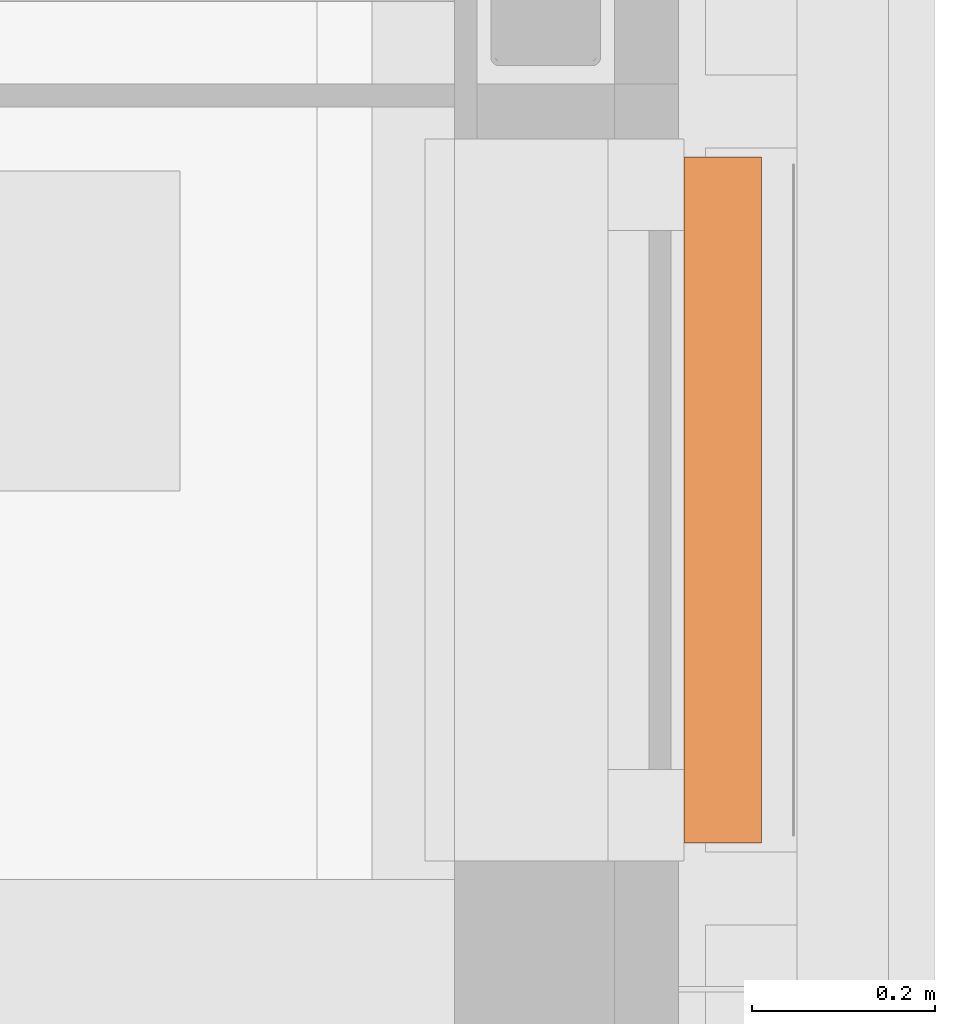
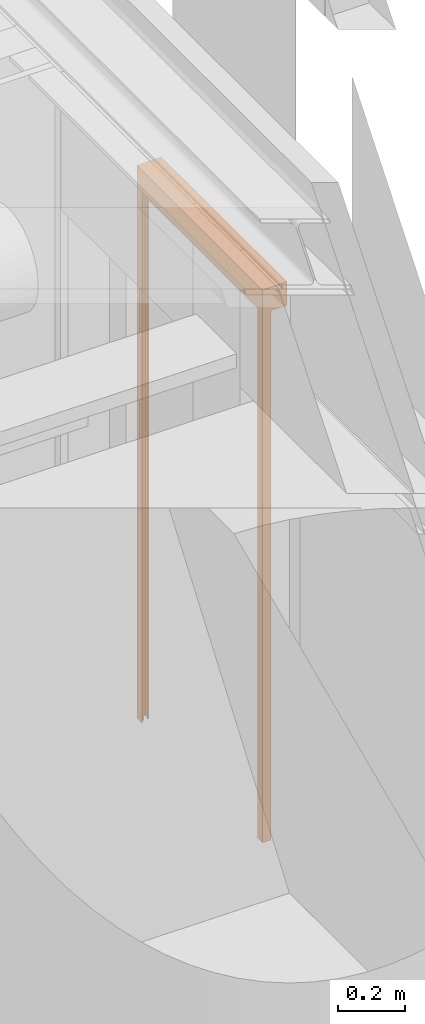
# One storey, part 106 of 128: 1 proxy.
"""IFC2X3 building model written with IfcOpenShell, lengths in millimetres."""

from ifc_helpers import new_model, entity, si_unit, converted_unit, derived_unit, direction, frame, frame_2d, origin, place, context, subcontext, project, spatial, polyline, circle_curve, parameter, trimmed, segment, composite_curve, rectangle, outline, extrude, source, transform, mapped, material, material_list, type_object, type_shapes, element, save


model = new_model("IFC2X3")

# Units and contexts
model_context = context("Model", 3, precision=0.01, world=origin(), true_north=direction((6.123031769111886e-17, 1.0)))
body_context = subcontext(model_context, "Body", "Model", "MODEL_VIEW")
ifc_project = project(units=[si_unit("LENGTHUNIT", "METRE", prefix="MILLI"), si_unit("AREAUNIT", "SQUARE_METRE"), si_unit("VOLUMEUNIT", "CUBIC_METRE"), converted_unit("PLANEANGLEUNIT", "DEGREE", entity("IfcRatioMeasure", 0.017453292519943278), si_unit("PLANEANGLEUNIT", "RADIAN"), dimensions=[0, 0, 0, 0, 0, 0, 0]), si_unit("MASSUNIT", "GRAM", prefix="KILO"), derived_unit("MASSDENSITYUNIT", [(si_unit("MASSUNIT", "GRAM", prefix="KILO"), 1), (si_unit("LENGTHUNIT", "METRE"), -3)]), derived_unit("IONCONCENTRATIONUNIT", [(si_unit("MASSUNIT", "GRAM", prefix="KILO"), 1), (si_unit("LENGTHUNIT", "METRE"), -3)]), derived_unit("MOMENTOFINERTIAUNIT", [(si_unit("LENGTHUNIT", "METRE"), 4)]), si_unit("TIMEUNIT", "SECOND"), si_unit("FREQUENCYUNIT", "HERTZ"), si_unit("THERMODYNAMICTEMPERATUREUNIT", "DEGREE_CELSIUS"), derived_unit("THERMALTRANSMITTANCEUNIT", [(si_unit("MASSUNIT", "GRAM", prefix="KILO"), 1), (si_unit("THERMODYNAMICTEMPERATUREUNIT", "KELVIN"), -1), (si_unit("TIMEUNIT", "SECOND"), -3)]), derived_unit("THERMALCONDUCTANCEUNIT", [(si_unit("MASSUNIT", "GRAM", prefix="KILO"), 1), (si_unit("THERMODYNAMICTEMPERATUREUNIT", "KELVIN"), -1), (si_unit("TIMEUNIT", "SECOND"), -3), (si_unit("LENGTHUNIT", "METRE"), 1)]), derived_unit("VOLUMETRICFLOWRATEUNIT", [(si_unit("LENGTHUNIT", "METRE"), 3), (si_unit("TIMEUNIT", "SECOND"), -1)]), derived_unit("MASSFLOWRATEUNIT", [(si_unit("MASSUNIT", "GRAM", prefix="KILO"), 1), (si_unit("TIMEUNIT", "SECOND"), -1)]), derived_unit("ROTATIONALFREQUENCYUNIT", [(si_unit("TIMEUNIT", "SECOND"), -1)]), si_unit("ELECTRICCURRENTUNIT", "AMPERE"), si_unit("ELECTRICVOLTAGEUNIT", "VOLT"), si_unit("POWERUNIT", "WATT"), si_unit("FORCEUNIT", "NEWTON", prefix="KILO"), si_unit("ILLUMINANCEUNIT", "LUX"), si_unit("LUMINOUSFLUXUNIT", "LUMEN"), si_unit("LUMINOUSINTENSITYUNIT", "CANDELA"), derived_unit("USERDEFINED", [(si_unit("MASSUNIT", "GRAM", prefix="KILO"), -1), (si_unit("LENGTHUNIT", "METRE"), -2), (si_unit("TIMEUNIT", "SECOND"), 3), (si_unit("LUMINOUSFLUXUNIT", "LUMEN"), 1)]), derived_unit("USERDEFINED", [(si_unit("MASSUNIT", "GRAM", prefix="KILO"), 1), (si_unit("TIMEUNIT", "SECOND"), -3), (si_unit("LENGTHUNIT", "METRE"), 3), (si_unit("ELECTRICCURRENTUNIT", "AMPERE"), -2)]), derived_unit("SOUNDPOWERUNIT", [(si_unit("MASSUNIT", "GRAM", prefix="KILO"), 1), (si_unit("TIMEUNIT", "SECOND"), -3), (si_unit("LENGTHUNIT", "METRE"), 2)]), derived_unit("SOUNDPRESSUREUNIT", [(si_unit("MASSUNIT", "GRAM", prefix="KILO"), 1), (si_unit("LENGTHUNIT", "METRE"), -1), (si_unit("TIMEUNIT", "SECOND"), -2)]), derived_unit("LINEARVELOCITYUNIT", [(si_unit("LENGTHUNIT", "METRE"), 1), (si_unit("TIMEUNIT", "SECOND"), -1)]), si_unit("PRESSUREUNIT", "PASCAL"), derived_unit("USERDEFINED", [(si_unit("MASSUNIT", "GRAM", prefix="KILO"), 1), (si_unit("LENGTHUNIT", "METRE"), -2), (si_unit("TIMEUNIT", "SECOND"), -2)]), derived_unit("LINEARFORCEUNIT", [(si_unit("MASSUNIT", "GRAM", prefix="KILO"), 1), (si_unit("TIMEUNIT", "SECOND"), -2)]), derived_unit("PLANARFORCEUNIT", [(si_unit("MASSUNIT", "GRAM", prefix="KILO"), 1), (si_unit("LENGTHUNIT", "METRE"), -1), (si_unit("TIMEUNIT", "SECOND"), -2)]), derived_unit("SPECIFICHEATCAPACITYUNIT", [(si_unit("THERMODYNAMICTEMPERATUREUNIT", "KELVIN"), -1), (si_unit("LENGTHUNIT", "METRE"), 2), (si_unit("TIMEUNIT", "SECOND"), -2)]), derived_unit("HEATINGVALUEUNIT", [(si_unit("LENGTHUNIT", "METRE"), 2), (si_unit("TIMEUNIT", "SECOND"), -2)]), derived_unit("VAPORPERMEABILITYUNIT", [(si_unit("LENGTHUNIT", "METRE"), -1), (si_unit("TIMEUNIT", "SECOND"), 1)]), derived_unit("DYNAMICVISCOSITYUNIT", [(si_unit("MASSUNIT", "GRAM", prefix="KILO"), 1), (si_unit("TIMEUNIT", "SECOND"), -1), (si_unit("LENGTHUNIT", "METRE"), -1)]), derived_unit("THERMALEXPANSIONCOEFFICIENTUNIT", [(si_unit("THERMODYNAMICTEMPERATUREUNIT", "KELVIN"), -1)]), derived_unit("MODULUSOFELASTICITYUNIT", [(si_unit("MASSUNIT", "GRAM", prefix="KILO"), 1), (si_unit("LENGTHUNIT", "METRE"), -1), (si_unit("TIMEUNIT", "SECOND"), -2)]), derived_unit("ISOTHERMALMOISTURECAPACITYUNIT", [(si_unit("LENGTHUNIT", "METRE"), 3), (si_unit("MASSUNIT", "GRAM", prefix="KILO"), -1)]), derived_unit("MOISTUREDIFFUSIVITYUNIT", [(si_unit("TIMEUNIT", "SECOND"), -1), (si_unit("LENGTHUNIT", "METRE"), 2)])], contexts=[model_context])

# Site, building, storey
site_placement = place(None, frame((0.0, 300.0, 0.0)))
site = spatial("IfcSite", under=ifc_project, at=site_placement, Name="<Kadastrale nummers>", CompositionType="ELEMENT")
building_placement = place(site_placement, origin())
building = spatial("IfcBuilding", under=site, at=building_placement, CompositionType="ELEMENT")
storey_placement = place(building_placement, frame((0.0, 0.0, 3560.0000331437)))
storey = spatial("IfcBuildingStorey", under=building, at=storey_placement, Name="01 eerste verdieping", CompositionType="ELEMENT", Elevation=3560.0000331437)

# Proxy
ifc_material_1 = material(Name="STAAL_RAL 7006")
ifc_material_2 = material(Name="<Unnamed>")
ifc_material_list = material_list([ifc_material_1, ifc_material_2])
building_element_proxy_type = type_object("IfcBuildingElementProxyType", Name="31_DAT_Screen_zonwering_bak85:31_DAT_Screen_zonwering_bak85", PredefinedType="NOTDEFINED", material=ifc_material_list)
shared_shape = source(origin(), body_context, "Body", "SweptSolid", [
    extrude(outline(polyline([(-60.69864841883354, -53.573897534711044), (20.695945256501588, -53.573897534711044), (20.695945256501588, 1.1216926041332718), (22.501351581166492, 1.1216926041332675), (22.501351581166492, 24.626102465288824), (17.501351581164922, 24.626102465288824), (17.501351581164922, 27.826102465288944), (-60.69864841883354, 27.826102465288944), (-60.69864841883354, -53.573897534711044)])), frame((748.0, -29.62610246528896, 2752.501351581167), z_axis=(1.0, 0.0, 0.0), x_axis=(0.0, 0.0, -1.0)), (0.0, 0.0, 1.0), 1.9999999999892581),
    extrude(outline(polyline([(-55.83243227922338, -51.08259835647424), (29.167567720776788, -51.08259835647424), (29.167567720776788, 5.412991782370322), (27.362161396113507, 5.412991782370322), (27.362161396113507, -49.28259835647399), (-54.032432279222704, -49.28259835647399), (-54.032432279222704, 32.117401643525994), (24.16756772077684, 32.117401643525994), (24.16756772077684, 28.91740164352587), (29.167567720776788, 28.91740164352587), (29.167567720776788, 33.917401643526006), (-55.83243227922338, 33.917401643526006), (-55.83243227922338, -51.08259835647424)])), frame((0.0, -33.917401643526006, 2759.1675677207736), z_axis=(1.0, 0.0, 0.0), x_axis=(0.0, 0.0, -1.0)), (0.0, 0.0, 1.0), 749.9999999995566),
    extrude(outline(polyline([(-60.69864841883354, -53.573897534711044), (20.695945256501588, -53.573897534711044), (20.695945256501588, 1.1216926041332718), (22.501351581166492, 1.1216926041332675), (22.501351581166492, 24.626102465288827), (17.501351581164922, 24.626102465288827), (17.501351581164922, 27.826102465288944), (-60.69864841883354, 27.826102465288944), (-60.69864841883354, -53.573897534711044)])), frame((0.0, -29.62610246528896, 2752.501351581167), z_axis=(1.0, 0.0, 0.0), x_axis=(0.0, 0.0, -1.0)), (0.0, 0.0, 1.0), 1.999999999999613),
    extrude(rectangle(XDim=709.9999999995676, YDim=1.163311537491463, at=frame_2d((0.0, -2.1094237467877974e-15), x_axis=(1.0, 0.0))), frame((375.0, -20.037293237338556, 2730.0)), (0.0, 0.0, 1.0), 61.996041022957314),
    extrude(outline(composite_curve([segment(polyline([(-7.502327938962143, -23.023758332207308), (7.497672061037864, -23.023758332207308)]), True, "CONTINUOUS"), segment(trimmed(circle_curve(frame_2d((7.497672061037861, -21.523758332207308), x_axis=(0.0, -1.0)), 1.4999999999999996), [parameter(359.99999999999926)], [parameter(90.00000000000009)], True, "PARAMETER"), True, "CONTINUOUS"), segment(polyline([(8.997672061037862, -21.523758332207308), (8.997672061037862, 8.976241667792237)]), True, "CONTINUOUS"), segment(trimmed(circle_curve(frame_2d((5.99767206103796, 8.976241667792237), x_axis=(0.0, -1.0)), 3.0), [parameter(90.00000000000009)], [parameter(172.84454900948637)], True, "PARAMETER"), True, "CONTINUOUS"), segment(polyline([(6.371357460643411, 11.952877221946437), (2.232090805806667, 12.470504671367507)]), True, "CONTINUOUS"), segment(trimmed(circle_curve(frame_2d((2.1399803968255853, 11.733933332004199), x_axis=(0.0, -1.0)), 0.7423083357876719), [parameter(172.87199730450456)], [parameter(323.5235343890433)], True, "PARAMETER"), True, "CONTINUOUS"), segment(trimmed(circle_curve(frame_2d((-0.0023279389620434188, 8.976241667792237), x_axis=(0.0, -1.0)), 2.75), [parameter(217.47327986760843)], [parameter(141.78969998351)], True, "PARAMETER"), False, "CONTINUOUS"), segment(trimmed(circle_curve(frame_2d((-2.144636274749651, 11.733933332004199), x_axis=(0.0, -1.0)), 0.7423083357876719), [parameter(39.207114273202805)], [parameter(187.12800269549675)], True, "PARAMETER"), True, "CONTINUOUS"), segment(polyline([(-2.2367466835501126, 12.470504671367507), (-6.376013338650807, 11.95287722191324)]), True, "CONTINUOUS"), segment(trimmed(circle_curve(frame_2d((-6.002327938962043, 8.976241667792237), x_axis=(0.0, -1.0)), 3.0), [parameter(187.1554509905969)], [parameter(269.9999999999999)], True, "PARAMETER"), True, "CONTINUOUS"), segment(polyline([(-9.002327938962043, 8.976241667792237), (-9.002327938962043, -21.523758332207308)]), True, "CONTINUOUS"), segment(trimmed(circle_curve(frame_2d((-7.502327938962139, -21.523758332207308), x_axis=(0.0, -1.0)), 1.5000000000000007), [parameter(269.9999999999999)], [parameter(359.9999999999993)], True, "PARAMETER"), True, "CONTINUOUS")], self_intersect=False)), frame((20.0, -19.997672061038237, 2785.0197993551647), z_axis=(1.0, 0.0, 0.0), x_axis=(0.0, 1.0, 0.0)), (0.0, 0.0, 1.0), 709.9999999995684),
    extrude(outline(polyline([(-14.638298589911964, -16.231574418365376), (-13.138298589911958, -16.231574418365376), (-13.138298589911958, 12.232729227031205), (-6.116685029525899, 12.232729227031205), (-6.116685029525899, -6.231574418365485), (-1.116685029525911, -6.231574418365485), (-1.116685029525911, -4.769580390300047), (-4.579546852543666, -4.769580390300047), (-4.579546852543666, 12.23272922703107), (13.86611127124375, 12.23272922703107), (13.86611127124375, -4.769580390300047), (10.36170141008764, -4.769580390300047), (10.36170141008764, -6.2315744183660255), (15.36170141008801, -6.2315744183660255), (15.36170141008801, 13.768425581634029), (-14.638298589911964, 13.768425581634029), (-14.638298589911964, -16.231574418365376)])), frame((736.2315744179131, -14.638298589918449, 800.0), z_axis=(0.0, 0.0, 1.0), x_axis=(0.0, -1.0, 0.0)), (0.0, 0.0, 1.0), 1930.000000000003),
    extrude(outline(polyline([(-16.231574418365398, -14.638298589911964), (13.768425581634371, -14.638298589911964), (13.76842558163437, 15.361701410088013), (-6.231574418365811, 15.361701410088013), (-6.231574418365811, 10.361701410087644), (-4.769580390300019, 10.361701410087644), (-4.769580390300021, 13.866111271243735), (12.2327292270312, 13.866111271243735), (12.2327292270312, -4.57954685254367), (-4.769580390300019, -4.57954685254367), (-4.769580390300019, -1.1166850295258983), (-6.231574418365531, -1.1166850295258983), (-6.231574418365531, -6.116685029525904), (12.232729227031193, -6.116685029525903), (12.232729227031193, -13.138298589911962), (-16.231574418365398, -13.138298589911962), (-16.231574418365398, -14.638298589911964)])), frame((13.768425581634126, -14.638298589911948, 800.0), z_axis=(0.0, 0.0, 1.0), x_axis=(-1.0, 0.0, 0.0)), (0.0, 0.0, 1.0), 1930.0000000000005),
])
type_shapes(building_element_proxy_type, [shared_shape])
proxy_placement = place(storey_placement, frame((48751.0, 29990.0, 100.00000187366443), z_axis=(0.0, 0.0, 1.0), x_axis=(0.0, 1.0, 0.0)))
element("IfcBuildingElementProxy", 1, at=proxy_placement, inside=storey, type_object=building_element_proxy_type, material=ifc_material_list, Name="31_DAT_Screen_zonwering_bak85:31_DAT_Screen_zonwering_bak85", ObjectType="31_DAT_Screen_zonwering_bak85:31_DAT_Screen_zonwering_bak85", context=body_context, shape_type="MappedRepresentation", body=[
    mapped(shared_shape, transform((0.0, 0.0, 0.0), scale=1.0)),
])

save(model, "model.ifc")
